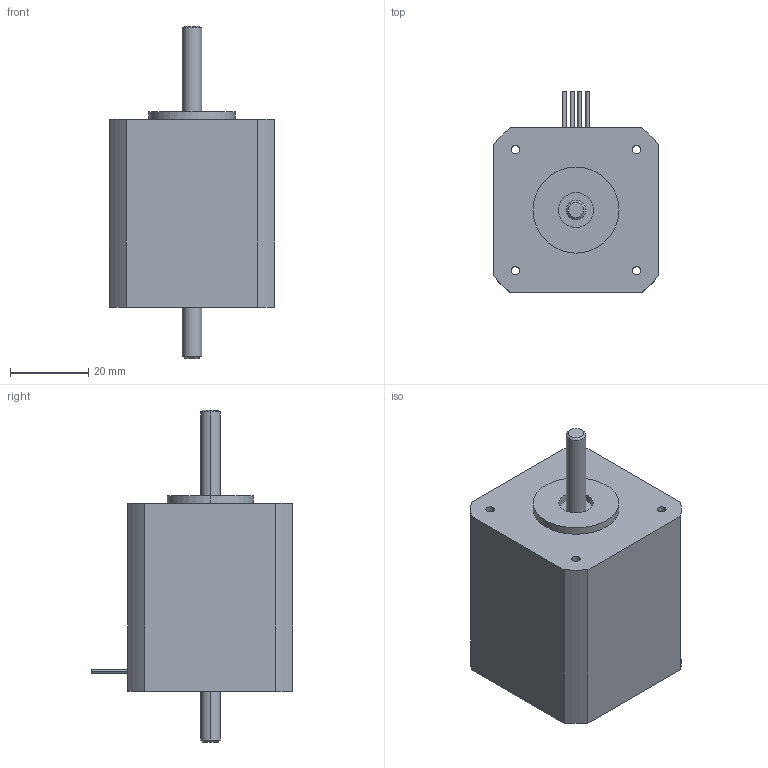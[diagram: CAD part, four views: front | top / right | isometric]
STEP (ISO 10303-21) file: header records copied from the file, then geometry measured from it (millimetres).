
FILE_DESCRIPTION((''),'2;1');
FILE_NAME('C:\Documents and Settings\rbadgerow\Desktop\webmodelmain\web step 3d\4118l\4118l d.stp','2005-05-12T07:07:12',('rbadgerow'),(''),'Autodesk Inventor 9','Autodesk Inventor 9','');
FILE_SCHEMA(('AUTOMOTIVE_DESIGN { 1 0 10303 214 1 1 1 1 }'));
Length unit declared in the file: inch
Products named in the file (1): 4118l d
Bounding box: 42.16 x 51.56 x 84.84 mm (x, y, z)
Volume: 84330.2 mm3; surface area: 13314.7 mm2
Topology: 2 solids, 2 shells, 50 faces, 110 edges, 72 vertices
Faces by surface type: cylinder 30, plane 16, cone 4
Entity records: 1446 total; most frequent: DIRECTION 276, CARTESIAN_POINT 233, ORIENTED_EDGE 220, AXIS2_PLACEMENT_3D 115, EDGE_CURVE 110, VERTEX_POINT 72, EDGE_LOOP 66, CIRCLE 64
